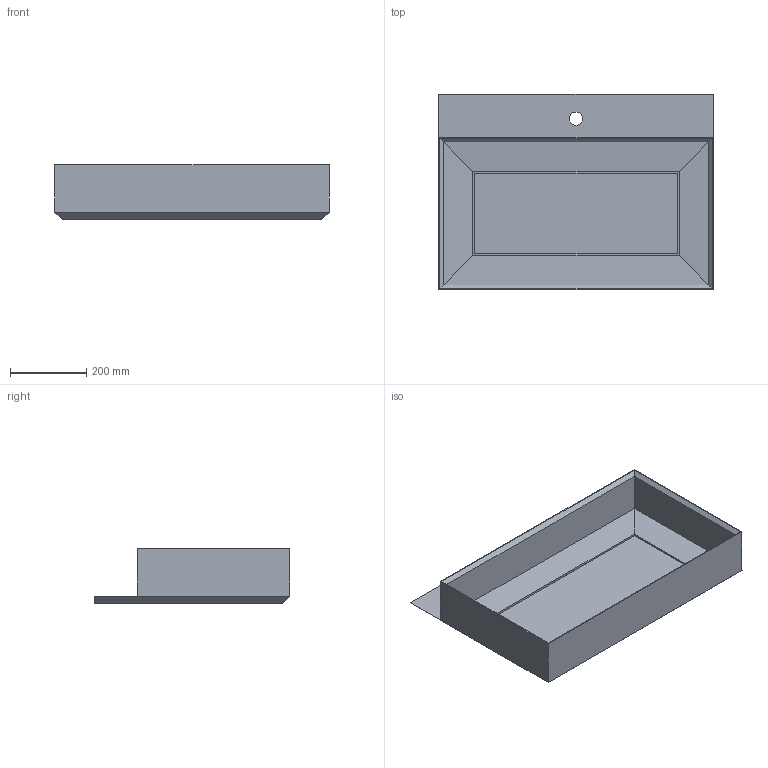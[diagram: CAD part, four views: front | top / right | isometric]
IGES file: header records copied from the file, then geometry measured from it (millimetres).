
Start section: Data from Parasolid IGES Translator 19.0.9, Copyright(c) 2006 Siemens PL M Software. All Rights Reserved.
Global section: file name: noorth-top-H 1,9 D 51,3 W 72_4652.igs; native system: By Siemens PLM Incorporated; preprocessor: XPlus GENERIC/IGES 19.0.9; author: Noname; organization: Noname; date: 20200603.115647; units: metre
Bounding box: 720 x 513 x 144 mm (x, y, z)
Volume: 11842335.7 mm3; surface area: 1856595.9 mm2
Topology: 2 solids, 2 shells, 40 faces, 99 edges, 62 vertices
Faces by surface type: plane 39, cylinder 1
Full cylindrical faces by diameter (mm): 34.9 x1
